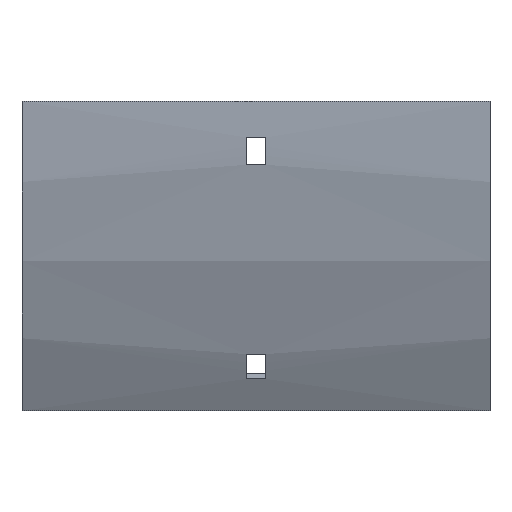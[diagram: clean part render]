
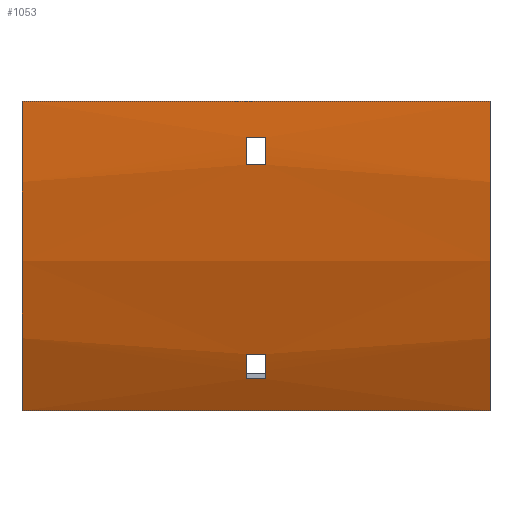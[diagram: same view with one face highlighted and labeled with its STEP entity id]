
A CAD part, front view. The second image highlights one B-rep face of the part: STEP entity #1053.
In plain terms, the highlighted cylindrical face has radius 204 mm (diameter 408 mm), a partial arc.
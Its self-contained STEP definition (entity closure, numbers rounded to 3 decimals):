
#6 = LINE ( 'NONE', #777, #1629 ) ;
#39 = VERTEX_POINT ( 'NONE', #197 ) ;
#50 = VERTEX_POINT ( 'NONE', #1082 ) ;
#58 = ORIENTED_EDGE ( 'NONE', *, *, #615, .F. ) ;
#61 = LINE ( 'NONE', #438, #1044 ) ;
#109 = CARTESIAN_POINT ( 'NONE',  ( 77., -102.916, -21. ) ) ;
#121 = CARTESIAN_POINT ( 'NONE',  ( -3.25, -82.363, -91.431 ) ) ;
#129 = EDGE_CURVE ( 'NONE', #823, #1011, #1102, .T. ) ;
#145 = DIRECTION ( 'NONE',  ( -1., 0., 0. ) ) ;
#177 = DIRECTION ( 'NONE',  ( 0., 0., 1. ) ) ;
#185 = CARTESIAN_POINT ( 'NONE',  ( -3.25, 100., 0. ) ) ;
#187 = DIRECTION ( 'NONE',  ( 0., 0., -1. ) ) ;
#197 = CARTESIAN_POINT ( 'NONE',  ( -3.25, -86.231, -83.272 ) ) ;
#205 = EDGE_CURVE ( 'NONE', #39, #1310, #908, .T. ) ;
#263 = VERTEX_POINT ( 'NONE', #618 ) ;
#307 = EDGE_CURVE ( 'NONE', #263, #39, #61, .T. ) ;
#311 = CARTESIAN_POINT ( 'NONE',  ( -3.25, 100., 0. ) ) ;
#330 = DIRECTION ( 'NONE',  ( 0., 0., -1. ) ) ;
#346 = CARTESIAN_POINT ( 'NONE',  ( -3.25, -103.647, -12. ) ) ;
#351 = AXIS2_PLACEMENT_3D ( 'NONE', #311, #684, #832 ) ;
#354 = DIRECTION ( 'NONE',  ( 1., 0., 0. ) ) ;
#360 = FACE_BOUND ( 'NONE', #938, .T. ) ;
#408 = ORIENTED_EDGE ( 'NONE', *, *, #1099, .T. ) ;
#417 = ORIENTED_EDGE ( 'NONE', *, *, #1304, .T. ) ;
#428 = CARTESIAN_POINT ( 'NONE',  ( 3.25, -82.363, -91.431 ) ) ;
#438 = CARTESIAN_POINT ( 'NONE',  ( 77., -86.231, -83.272 ) ) ;
#498 = CARTESIAN_POINT ( 'NONE',  ( -77., -104., 0. ) ) ;
#499 = CARTESIAN_POINT ( 'NONE',  ( -77., 100., 0. ) ) ;
#543 = EDGE_CURVE ( 'NONE', #1571, #50, #6, .T. ) ;
#552 = ORIENTED_EDGE ( 'NONE', *, *, #999, .T. ) ;
#560 = CARTESIAN_POINT ( 'NONE',  ( 3.25, 100., 0. ) ) ;
#593 = ORIENTED_EDGE ( 'NONE', *, *, #820, .F. ) ;
#604 = CARTESIAN_POINT ( 'NONE',  ( 77., -82.363, -91.431 ) ) ;
#615 = EDGE_CURVE ( 'NONE', #1344, #1571, #909, .T. ) ;
#617 = CYLINDRICAL_SURFACE ( 'NONE', #1453, 204. ) ;
#618 = CARTESIAN_POINT ( 'NONE',  ( 3.25, -86.231, -83.272 ) ) ;
#654 = CIRCLE ( 'NONE', #1599, 204. ) ;
#684 = DIRECTION ( 'NONE',  ( -1., 0., 0. ) ) ;
#694 = CARTESIAN_POINT ( 'NONE',  ( 3.25, -103.647, -12. ) ) ;
#710 = AXIS2_PLACEMENT_3D ( 'NONE', #560, #1091, #330 ) ;
#712 = AXIS2_PLACEMENT_3D ( 'NONE', #185, #1001, #1528 ) ;
#739 = ORIENTED_EDGE ( 'NONE', *, *, #543, .F. ) ;
#760 = CARTESIAN_POINT ( 'NONE',  ( 77., -76.669, -102. ) ) ;
#770 = DIRECTION ( 'NONE',  ( 1., 0., 0. ) ) ;
#776 = DIRECTION ( 'NONE',  ( 1., 0., 0. ) ) ;
#777 = CARTESIAN_POINT ( 'NONE',  ( 77., -76.669, -102. ) ) ;
#789 = CARTESIAN_POINT ( 'NONE',  ( 77., -104., 0. ) ) ;
#820 = EDGE_CURVE ( 'NONE', #1200, #263, #654, .T. ) ;
#823 = VERTEX_POINT ( 'NONE', #694 ) ;
#832 = DIRECTION ( 'NONE',  ( 0., 0., 1. ) ) ;
#839 = EDGE_CURVE ( 'NONE', #1429, #1600, #1106, .T. ) ;
#854 = ORIENTED_EDGE ( 'NONE', *, *, #839, .T. ) ;
#876 = CARTESIAN_POINT ( 'NONE',  ( 77., 100., 0. ) ) ;
#888 = LINE ( 'NONE', #109, #905 ) ;
#891 = FACE_BOUND ( 'NONE', #1641, .T. ) ;
#905 = VECTOR ( 'NONE', #1417, 1000. ) ;
#906 = LINE ( 'NONE', #604, #1181 ) ;
#908 = CIRCLE ( 'NONE', #712, 204. ) ;
#909 = CIRCLE ( 'NONE', #1516, 204. ) ;
#929 = CIRCLE ( 'NONE', #1150, 204. ) ;
#938 = EDGE_LOOP ( 'NONE', ( #969, #1446, #593, #1308 ) ) ;
#969 = ORIENTED_EDGE ( 'NONE', *, *, #205, .F. ) ;
#982 = CARTESIAN_POINT ( 'NONE',  ( 77., -103.647, -12. ) ) ;
#986 = VECTOR ( 'NONE', #354, 1000. ) ;
#999 = EDGE_CURVE ( 'NONE', #1206, #50, #929, .T. ) ;
#1001 = DIRECTION ( 'NONE',  ( 1., 0., 0. ) ) ;
#1011 = VERTEX_POINT ( 'NONE', #1163 ) ;
#1019 = DIRECTION ( 'NONE',  ( 0., 0., 1. ) ) ;
#1032 = CARTESIAN_POINT ( 'NONE',  ( 77., -104., 0. ) ) ;
#1044 = VECTOR ( 'NONE', #145, 1000. ) ;
#1053 = ADVANCED_FACE ( 'NONE', ( #1675, #891, #360 ), #617, .T. ) ;
#1082 = CARTESIAN_POINT ( 'NONE',  ( -77., -76.669, -102. ) ) ;
#1091 = DIRECTION ( 'NONE',  ( 1., 0., 0. ) ) ;
#1099 = EDGE_CURVE ( 'NONE', #1344, #1206, #1297, .T. ) ;
#1102 = CIRCLE ( 'NONE', #710, 204. ) ;
#1105 = ORIENTED_EDGE ( 'NONE', *, *, #1148, .T. ) ;
#1106 = CIRCLE ( 'NONE', #351, 204. ) ;
#1145 = DIRECTION ( 'NONE',  ( 1., 0., 0. ) ) ;
#1148 = EDGE_CURVE ( 'NONE', #1600, #823, #1638, .T. ) ;
#1150 = AXIS2_PLACEMENT_3D ( 'NONE', #499, #770, #1178 ) ;
#1151 = CARTESIAN_POINT ( 'NONE',  ( 77., 100., 0. ) ) ;
#1163 = CARTESIAN_POINT ( 'NONE',  ( 3.25, -102.916, -21. ) ) ;
#1166 = EDGE_LOOP ( 'NONE', ( #552, #739, #58, #408 ) ) ;
#1178 = DIRECTION ( 'NONE',  ( 0., 0., -1. ) ) ;
#1181 = VECTOR ( 'NONE', #776, 1000. ) ;
#1200 = VERTEX_POINT ( 'NONE', #428 ) ;
#1206 = VERTEX_POINT ( 'NONE', #498 ) ;
#1283 = EDGE_CURVE ( 'NONE', #1310, #1200, #906, .T. ) ;
#1289 = VECTOR ( 'NONE', #1565, 1000. ) ;
#1297 = LINE ( 'NONE', #1032, #1289 ) ;
#1303 = DIRECTION ( 'NONE',  ( -1., 0., 0. ) ) ;
#1304 = EDGE_CURVE ( 'NONE', #1011, #1429, #888, .T. ) ;
#1308 = ORIENTED_EDGE ( 'NONE', *, *, #1283, .F. ) ;
#1310 = VERTEX_POINT ( 'NONE', #121 ) ;
#1336 = CARTESIAN_POINT ( 'NONE',  ( -3.25, -102.916, -21. ) ) ;
#1344 = VERTEX_POINT ( 'NONE', #789 ) ;
#1417 = DIRECTION ( 'NONE',  ( -1., 0., 0. ) ) ;
#1429 = VERTEX_POINT ( 'NONE', #1336 ) ;
#1446 = ORIENTED_EDGE ( 'NONE', *, *, #307, .F. ) ;
#1453 = AXIS2_PLACEMENT_3D ( 'NONE', #1151, #1667, #1019 ) ;
#1473 = CARTESIAN_POINT ( 'NONE',  ( 3.25, 100., 0. ) ) ;
#1496 = DIRECTION ( 'NONE',  ( -1., 0., 0. ) ) ;
#1516 = AXIS2_PLACEMENT_3D ( 'NONE', #876, #1145, #187 ) ;
#1528 = DIRECTION ( 'NONE',  ( 0., 0., -1. ) ) ;
#1565 = DIRECTION ( 'NONE',  ( -1., 0., 0. ) ) ;
#1571 = VERTEX_POINT ( 'NONE', #760 ) ;
#1599 = AXIS2_PLACEMENT_3D ( 'NONE', #1473, #1496, #177 ) ;
#1600 = VERTEX_POINT ( 'NONE', #346 ) ;
#1629 = VECTOR ( 'NONE', #1303, 1000. ) ;
#1638 = LINE ( 'NONE', #982, #986 ) ;
#1641 = EDGE_LOOP ( 'NONE', ( #417, #854, #1105, #1672 ) ) ;
#1667 = DIRECTION ( 'NONE',  ( -1., 0., 0. ) ) ;
#1672 = ORIENTED_EDGE ( 'NONE', *, *, #129, .T. ) ;
#1675 = FACE_OUTER_BOUND ( 'NONE', #1166, .T. ) ;
